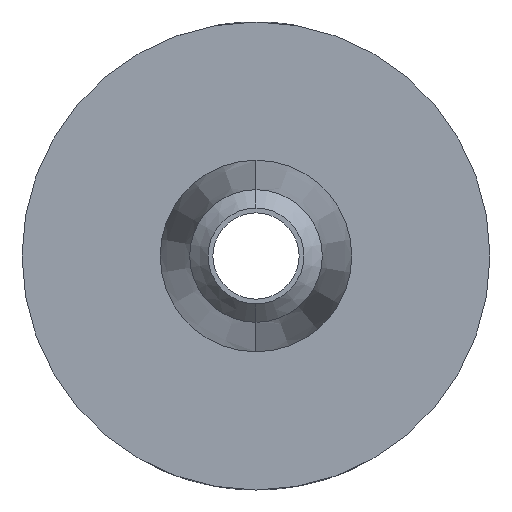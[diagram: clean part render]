
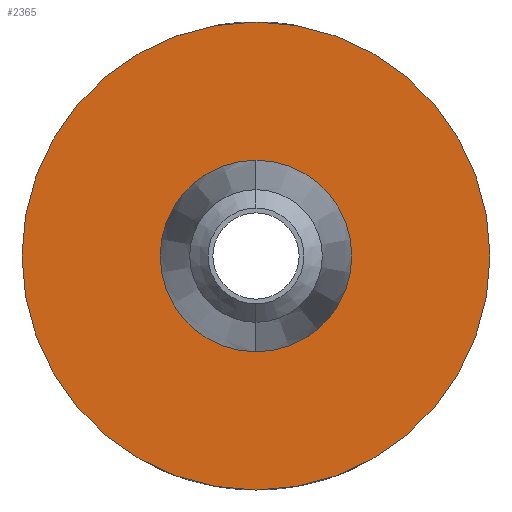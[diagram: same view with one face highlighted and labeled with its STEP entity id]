
A CAD part, left-side view. The second image highlights one B-rep face of the part: STEP entity #2365.
In plain terms, the highlighted planar face has unit normal (1, 0, 0).
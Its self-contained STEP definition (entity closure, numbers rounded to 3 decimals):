
#40=PLANE('',#2695);
#65=FACE_BOUND('',#312,.T.);
#135=CIRCLE('',#2696,3.175);
#136=CIRCLE('',#2697,1.3);
#221=FACE_OUTER_BOUND('',#311,.T.);
#311=EDGE_LOOP('',(#1938));
#312=EDGE_LOOP('',(#1939));
#1068=VERTEX_POINT('',#4383);
#1069=VERTEX_POINT('',#4385);
#1503=EDGE_CURVE('',#1068,#1068,#135,.T.);
#1504=EDGE_CURVE('',#1069,#1069,#136,.T.);
#1938=ORIENTED_EDGE('',*,*,#1503,.T.);
#1939=ORIENTED_EDGE('',*,*,#1504,.T.);
#2365=ADVANCED_FACE('',(#221,#65),#40,.T.);
#2695=AXIS2_PLACEMENT_3D('',#4382,#2999,#3000);
#2696=AXIS2_PLACEMENT_3D('',#4384,#3001,#3002);
#2697=AXIS2_PLACEMENT_3D('',#4386,#3003,#3004);
#2999=DIRECTION('center_axis',(1.,0.,0.));
#3000=DIRECTION('ref_axis',(0.,0.,-1.));
#3001=DIRECTION('center_axis',(1.,0.,0.));
#3002=DIRECTION('ref_axis',(0.,0.,-1.));
#3003=DIRECTION('center_axis',(-1.,0.,0.));
#3004=DIRECTION('ref_axis',(0.,0.,
-1.));
#4382=CARTESIAN_POINT('Origin',(-4.75,-3.213,0.));
#4383=CARTESIAN_POINT('',(-4.75,0.,3.175));
#4384=CARTESIAN_POINT('Origin',(-4.75,0.,0.));
#4385=CARTESIAN_POINT('',(-4.75,0.,1.3));
#4386=CARTESIAN_POINT('Origin',(-4.75,0.,0.));
